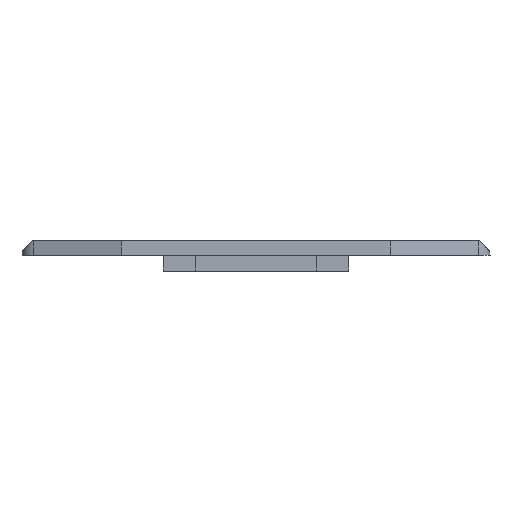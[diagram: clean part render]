
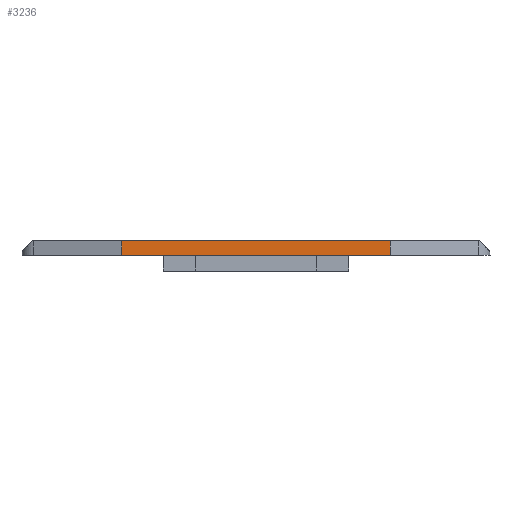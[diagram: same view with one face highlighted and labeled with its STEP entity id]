
A CAD part, left-side view. The second image highlights one B-rep face of the part: STEP entity #3236.
In plain terms, the highlighted planar face has unit normal (-1, 0, 0).
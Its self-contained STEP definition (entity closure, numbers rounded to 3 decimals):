
#14 = CARTESIAN_POINT ( 'NONE',  ( -226.918, 33.7, 0. ) ) ;
#210 = CARTESIAN_POINT ( 'NONE',  ( -226.918, 33.7, -3.6 ) ) ;
#501 = EDGE_CURVE ( 'NONE', #3182, #6047, #5160, .T. ) ;
#532 = VECTOR ( 'NONE', #1325, 1000. ) ;
#641 = FACE_OUTER_BOUND ( 'NONE', #3367, .T. ) ;
#759 = VECTOR ( 'NONE', #2490, 1000. ) ;
#1064 = ORIENTED_EDGE ( 'NONE', *, *, #501, .T. ) ;
#1292 = VECTOR ( 'NONE', #3575, 1000. ) ;
#1325 = DIRECTION ( 'NONE',  ( 0., 0., 1. ) ) ;
#1374 = CARTESIAN_POINT ( 'NONE',  ( -226.918, 0., -3.6 ) ) ;
#1721 = DIRECTION ( 'NONE',  ( 1., 0., 0. ) ) ;
#1850 = CARTESIAN_POINT ( 'NONE',  ( -226.918, -33.7, 0. ) ) ;
#2044 = EDGE_CURVE ( 'NONE', #4491, #2982, #3962, .T. ) ;
#2490 = DIRECTION ( 'NONE',  ( 0., 0., 1. ) ) ;
#2567 = CARTESIAN_POINT ( 'NONE',  ( -226.918, -33.7, -3.6 ) ) ;
#2741 = ORIENTED_EDGE ( 'NONE', *, *, #2044, .T. ) ;
#2849 = DIRECTION ( 'NONE',  ( 0., -1., 0. ) ) ;
#2982 = VERTEX_POINT ( 'NONE', #14 ) ;
#3096 = PLANE ( 'NONE',  #5312 ) ;
#3120 = CARTESIAN_POINT ( 'NONE',  ( -226.918, 0., 0. ) ) ;
#3182 = VERTEX_POINT ( 'NONE', #210 ) ;
#3236 = ADVANCED_FACE ( 'NONE', ( #641 ), #3096, .F. ) ;
#3259 = ORIENTED_EDGE ( 'NONE', *, *, #5372, .T. ) ;
#3272 = CARTESIAN_POINT ( 'NONE',  ( -226.918, 33.7, -3.6 ) ) ;
#3367 = EDGE_LOOP ( 'NONE', ( #2741, #5109, #1064, #3259 ) ) ;
#3575 = DIRECTION ( 'NONE',  ( 0., 1., 0. ) ) ;
#3876 = VECTOR ( 'NONE', #2849, 1000. ) ;
#3962 = LINE ( 'NONE', #3120, #1292 ) ;
#4030 = CARTESIAN_POINT ( 'NONE',  ( -226.918, 0., -3.6 ) ) ;
#4491 = VERTEX_POINT ( 'NONE', #1850 ) ;
#4774 = LINE ( 'NONE', #3272, #532 ) ;
#5109 = ORIENTED_EDGE ( 'NONE', *, *, #5570, .F. ) ;
#5160 = LINE ( 'NONE', #1374, #3876 ) ;
#5291 = LINE ( 'NONE', #5793, #759 ) ;
#5312 = AXIS2_PLACEMENT_3D ( 'NONE', #4030, #1721, #5491 ) ;
#5372 = EDGE_CURVE ( 'NONE', #6047, #4491, #5291, .T. ) ;
#5491 = DIRECTION ( 'NONE',  ( 0., 1., 0. ) ) ;
#5570 = EDGE_CURVE ( 'NONE', #3182, #2982, #4774, .T. ) ;
#5793 = CARTESIAN_POINT ( 'NONE',  ( -226.918, -33.7, -3.6 ) ) ;
#6047 = VERTEX_POINT ( 'NONE', #2567 ) ;
